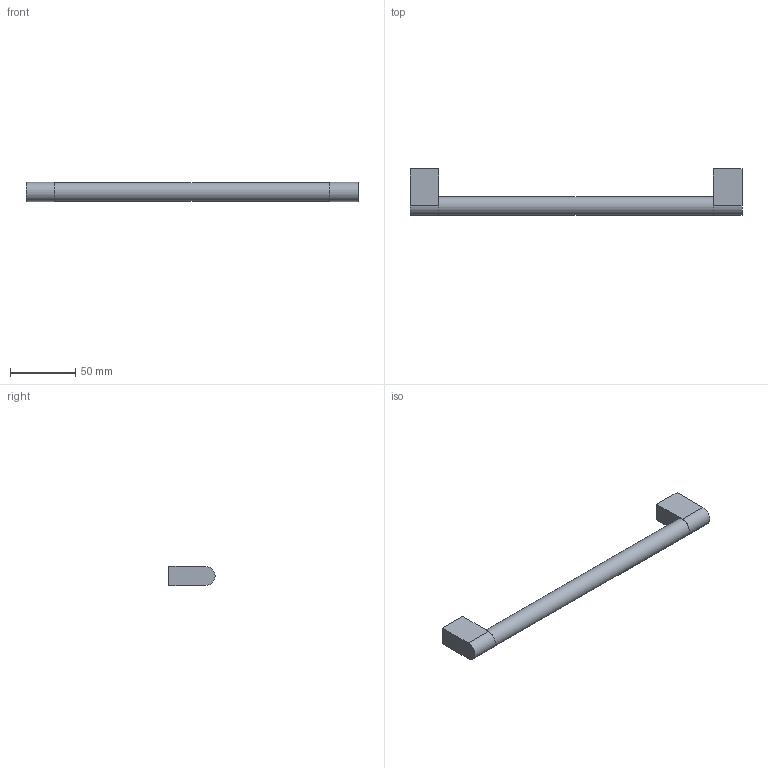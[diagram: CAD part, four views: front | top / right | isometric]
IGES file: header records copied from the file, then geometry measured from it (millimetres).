
Start section: Data from Parasolid IGES Translator 20.0.26, Copyright(c) 2006 Siemens P LM Software. All Rights Reserved.
Global section: file name: 9332350.igs; native system: By Siemens PLM Incorporated; preprocessor: XPlus GENERIC/IGES 20.0.26; author: Noname; organization: Noname; date: 20230829.123344; units: millimetre
Bounding box: 254 x 35.36 x 14.64 mm (x, y, z)
Surface area: 15738 mm2 (no closed solid volume)
Topology: 0 solids, 0 shells, 17 faces, 66 edges, 62 vertices
Faces by surface type: extrusion 12, revolution 5
